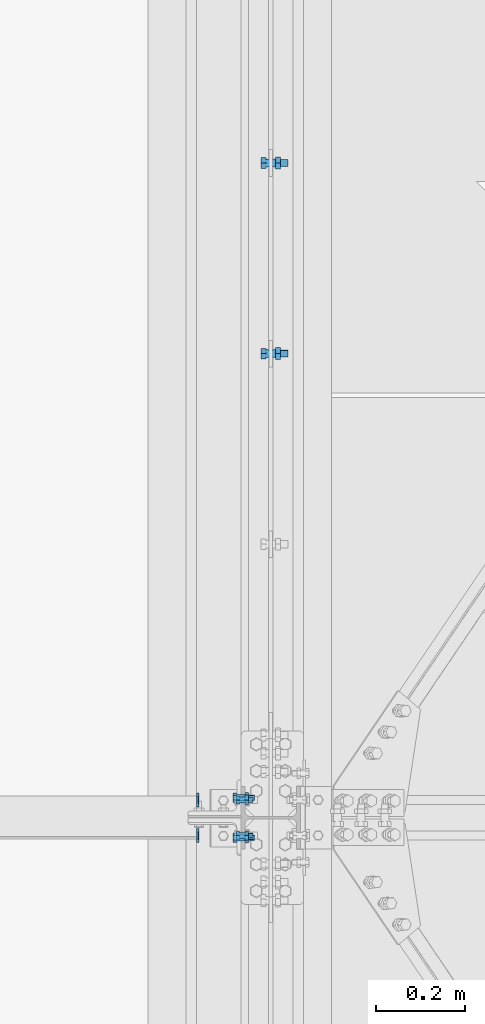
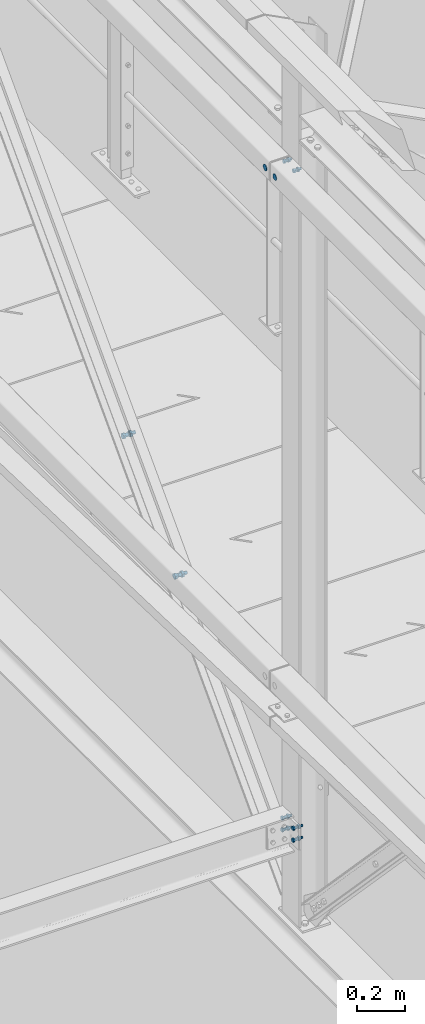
# One storey, part 281 of 362: 10 mechanical fasteners.
"""IFC2X3 building model written with IfcOpenShell, lengths in millimetres."""

from ifc_helpers import new_model, si_unit, frame, origin_with_axes, origin_2d_with_axis, place, context, subcontext, project, spatial, polyline, circle, outline, extrude, source, transform, mapped, material, type_object, element, save


model = new_model("IFC2X3")

# Units and contexts
model_context = context("Model", 3, precision=1e-05, world=origin_with_axes())
body_context = subcontext(model_context, "Body", "Model", "MODEL_VIEW")
ifc_project = project(units=[si_unit("LENGTHUNIT", "METRE", prefix="MILLI"), si_unit("AREAUNIT", "SQUARE_METRE"), si_unit("VOLUMEUNIT", "CUBIC_METRE"), si_unit("MASSUNIT", "GRAM", prefix="KILO"), si_unit("TIMEUNIT", "SECOND"), si_unit("PLANEANGLEUNIT", "RADIAN"), si_unit("SOLIDANGLEUNIT", "STERADIAN"), si_unit("THERMODYNAMICTEMPERATUREUNIT", "DEGREE_CELSIUS"), si_unit("LUMINOUSINTENSITYUNIT", "LUMEN")], contexts=[model_context])

# Site, building, storey
site_placement = place(None, origin_with_axes())
site = spatial("IfcSite", under=ifc_project, at=site_placement, Name="Undefined", CompositionType="ELEMENT")
building_placement = place(site_placement, origin_with_axes())
building = spatial("IfcBuilding", under=site, at=building_placement, Name="Undefined", CompositionType="ELEMENT")
storey_placement = place(building_placement, origin_with_axes())
storey = spatial("IfcBuildingStorey", under=building, at=storey_placement, Name="Undefined", CompositionType="ELEMENT", Elevation=0.0)

# Mechanical fasteners
ifc_material_1 = material(Name="6.8")
mechanical_fastener_type = type_object("IfcMechanicalFastenerType", Name="Bolt assembly")
shared_shape_1 = source(origin_with_axes(), body_context, "Body", "SweptSolid", [
    extrude(circle(Radius=15.0, at=origin_2d_with_axis()), frame((0.0, 0.0, 0.0), z_axis=(0.0, 1.0, 0.0), x_axis=(1.0, 0.0, 0.0)), (0.0, 0.0, 1.0), 4.1),
])
for number, where, z_axis, x_axis, name in (
    (1, (23303.5000012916, 7639.99203703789, 11070.0), (0.0, 1.0, 0.0), (0.0, 0.0, 1.0), "Bolt assembly"),
    (2, (23303.5000012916, 7560.0, 11070.0), (0.0, 1.0, 0.0), (0.0, 0.0, 1.0), "Bolt assembly"),
):
    element("IfcMechanicalFastener", number, at=place(storey_placement, frame(where, z_axis=z_axis, x_axis=x_axis)), inside=storey, type_object=mechanical_fastener_type, material=ifc_material_1, Name=name, NominalDiameter=30.0, NominalLength=4.0, context=body_context, shape_type="MappedRepresentation", body=[
        mapped(shared_shape_1, transform((0.0, 0.0, 0.0))),
    ])
ifc_material_2 = material(Name="8.8-SB-ZINGUE")
shared_shape_2 = source(origin_with_axes(), body_context, "Body", "SweptSolid", [
    extrude(circle(Radius=9.0, at=origin_2d_with_axis()), frame((0.0, -10.9000000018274, 0.0), z_axis=(0.0, 1.0, 0.0), x_axis=(1.0, 0.0, 0.0)), (0.0, 0.0, 1.0), 6.0),
    extrude(circle(Radius=9.0, at=origin_2d_with_axis()), frame((0.0, 4.9000000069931, 0.0), z_axis=(0.0, 1.0, 0.0), x_axis=(1.0, 0.0, 0.0)), (0.0, 0.0, 1.0), 6.1),
    extrude(circle(Radius=9.0, at=origin_2d_with_axis()), frame((0.0, -3.99999923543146, 0.0), z_axis=(0.0, 1.0, 0.0), x_axis=(1.0, 0.0, 0.0)), (0.0, 0.0, 1.0), 8.0),
    extrude(outline(polyline([(13.85640646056, 0.0), (6.92820323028, 12.0000000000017), (-6.92820323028, 12.0000000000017), (-13.85640646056, 0.0), (-6.92820323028, -12.0000000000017), (6.92820323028, -12.0000000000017), (13.85640646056, 0.0)])), frame((0.0, -21.5600000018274, 0.0), z_axis=(0.0, 1.0, 0.0), x_axis=(1.0, 0.0, 0.0)), (0.0, 0.0, 1.0), 10.56),
    extrude(circle(Radius=8.0, at=origin_2d_with_axis()), frame((0.0, -11.0000000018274, 0.0), z_axis=(0.0, 1.0, 0.0), x_axis=(1.0, 0.0, 0.0)), (0.0, 0.0, 1.0), 50.0),
    extrude(outline(polyline([(15.3344231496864, 0.0), (7.6672115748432, 13.2800000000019), (-7.6672115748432, 13.2800000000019), (-15.3344231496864, 0.0), (-7.6672115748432, -13.2800000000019), (7.6672115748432, -13.2800000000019), (15.3344231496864, 0.0)])), frame((0.0, 11.0000000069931, 0.0), z_axis=(0.0, 1.0, 0.0), x_axis=(1.0, 0.0, 0.0)), (0.0, 0.0, 1.0), 10.56),
])
for number, where, z_axis, x_axis, name in (
    (3, (23470.0, 8643.15240842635, 8344.21196859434), (0.0, 1.0, 0.0), (0.0, 0.0, 1.0), "Bolt assembly"),
    (4, (23470.0, 9071.576204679, 8793.60598386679), (0.0, 1.0, 0.0), (0.0, 0.0, 1.0), "Bolt assembly"),
):
    element("IfcMechanicalFastener", number, at=place(storey_placement, frame(where, z_axis=z_axis, x_axis=x_axis)), inside=storey, type_object=mechanical_fastener_type, material=ifc_material_2, Name=name, NominalDiameter=16.0, NominalLength=50.0, context=body_context, shape_type="MappedRepresentation", body=[
        mapped(shared_shape_2, transform((0.0, 0.0, 0.0))),
    ])
shared_shape_3 = source(origin_with_axes(), body_context, "Body", "SweptSolid", [
    extrude(circle(Radius=7.0, at=origin_2d_with_axis()), frame((0.0, -0.100011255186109, 0.0), z_axis=(0.0, 1.0, 0.0), x_axis=(1.0, 0.0, 0.0)), (0.0, 0.0, 1.0), 8.6),
    extrude(circle(Radius=7.0, at=origin_2d_with_axis()), frame((0.0, -3.89999843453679, 0.0), z_axis=(0.0, 1.0, 0.0), x_axis=(1.0, 0.0, 0.0)), (0.0, 0.0, 1.0), 4.0),
    extrude(outline(polyline([(10.39230484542, 0.0), (5.19615242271, 9.00000000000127), (-5.19615242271, 9.00000000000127), (-10.39230484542, 0.0), (-5.19615242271, -9.00000000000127), (5.19615242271, -9.00000000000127), (10.39230484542, 0.0)])), frame((0.0, -11.9199984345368, 0.0), z_axis=(0.0, 1.0, 0.0), x_axis=(1.0, 0.0, 0.0)), (0.0, 0.0, 1.0), 7.92),
    extrude(circle(Radius=6.0, at=origin_2d_with_axis()), frame((0.0, -3.99999923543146, 0.0), z_axis=(0.0, 1.0, 0.0), x_axis=(1.0, 0.0, 0.0)), (0.0, 0.0, 1.0), 30.0),
    extrude(outline(polyline([(11.5008173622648, 0.0), (5.7504086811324, 9.96000000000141), (-5.7504086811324, 9.96000000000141), (-11.5008173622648, 0.0), (-5.7504086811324, -9.96000000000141), (5.7504086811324, -9.96000000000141), (11.5008173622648, 0.0)])), frame((0.0, 8.49999994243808, 0.0), z_axis=(0.0, 1.0, 0.0), x_axis=(1.0, 0.0, 0.0)), (0.0, 0.0, 1.0), 7.92),
])
for number, where, z_axis, x_axis, name in (
    (5, (23403.5000012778, 7640.0, 11069.9999981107), (0.0, 1.0, 0.0), (0.0, 0.0, 1.0), "Bolt assembly"),
    (6, (23403.5000012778, 7560.0, 11069.9999981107), (0.0, 1.0, 0.0), (0.0, 0.0, 1.0), "Bolt assembly"),
):
    element("IfcMechanicalFastener", number, at=place(storey_placement, frame(where, z_axis=z_axis, x_axis=x_axis)), inside=storey, type_object=mechanical_fastener_type, material=ifc_material_2, Name=name, NominalDiameter=12.0, NominalLength=30.0, context=body_context, shape_type="MappedRepresentation", body=[
        mapped(shared_shape_3, transform((0.0, 0.0, 0.0))),
    ])
shared_shape_4 = source(origin_with_axes(), body_context, "Body", "SweptSolid", [
    extrude(circle(Radius=7.0, at=origin_2d_with_axis()), frame((0.0, -0.100011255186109, 0.0), z_axis=(0.0, 1.0, 0.0), x_axis=(1.0, 0.0, 0.0)), (0.0, 0.0, 1.0), 8.6),
    extrude(circle(Radius=7.0, at=origin_2d_with_axis()), frame((0.0, -9.9, 0.0), z_axis=(0.0, 1.0, 0.0), x_axis=(1.0, 0.0, 0.0)), (0.0, 0.0, 1.0), 10.0),
    extrude(outline(polyline([(10.39230484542, 0.0), (5.19615242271, 9.00000000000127), (-5.19615242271, 9.00000000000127), (-10.39230484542, 0.0), (-5.19615242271, -9.00000000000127), (5.19615242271, -9.00000000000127), (10.39230484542, 0.0)])), frame((0.0, -17.92, 0.0), z_axis=(0.0, 1.0, 0.0), x_axis=(1.0, 0.0, 0.0)), (0.0, 0.0, 1.0), 7.92),
    extrude(circle(Radius=6.0, at=origin_2d_with_axis()), frame((0.0, -10.0000010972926, 0.0), z_axis=(0.0, 1.0, 0.0), x_axis=(1.0, 0.0, 0.0)), (0.0, 0.0, 1.0), 40.0),
    extrude(outline(polyline([(11.5008173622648, 0.0), (5.7504086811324, 9.96000000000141), (-5.7504086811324, 9.96000000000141), (-11.5008173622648, 0.0), (-5.7504086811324, -9.96000000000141), (5.7504086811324, -9.96000000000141), (11.5008173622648, 0.0)])), frame((0.0, 8.49999994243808, 0.0), z_axis=(0.0, 1.0, 0.0), x_axis=(1.0, 0.0, 0.0)), (0.0, 0.0, 1.0), 7.92),
])
for number, where, z_axis, x_axis, name in (
    (7, (23403.5000013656, 7645.00005423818, 7749.71652427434), (0.0, 0.0, -1.0), (0.0, 1.0, 0.0), "Bolt assembly"),
    (8, (23403.5000013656, 7645.00005423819, 7689.68690241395), (0.0, 0.0, -1.0), (0.0, 1.0, 0.0), "Bolt assembly"),
    (9, (23403.5000013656, 7555.00005423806, 7692.51530772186), (0.0, 0.0, 1.0), (0.0, -1.0, 0.0), "Bolt assembly"),
    (10, (23403.5000013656, 7555.00005423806, 7752.54492958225), (0.0, 0.0, 1.0), (0.0, -1.0, 0.0), "Bolt assembly"),
):
    element("IfcMechanicalFastener", number, at=place(storey_placement, frame(where, z_axis=z_axis, x_axis=x_axis)), inside=storey, type_object=mechanical_fastener_type, material=ifc_material_2, Name=name, NominalDiameter=12.0, NominalLength=40.0, context=body_context, shape_type="MappedRepresentation", body=[
        mapped(shared_shape_4, transform((0.0, 0.0, 0.0))),
    ])

save(model, "model.ifc")
